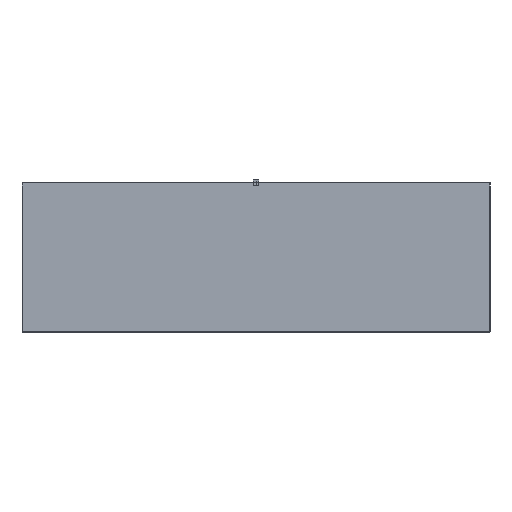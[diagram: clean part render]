
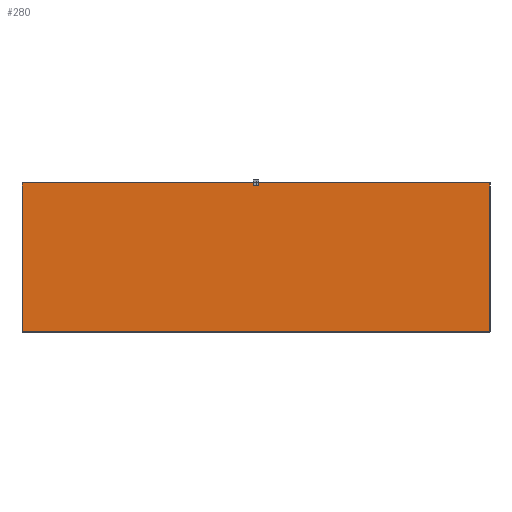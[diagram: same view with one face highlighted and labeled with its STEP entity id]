
A CAD part, top view. The second image highlights one B-rep face of the part: STEP entity #280.
In plain terms, the highlighted planar face has unit normal (0, 0, 1).
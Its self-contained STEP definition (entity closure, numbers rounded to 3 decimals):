
#1=DIRECTION('',(1.,0.,0.));
#2=VECTOR('',#1,1584.6);
#3=CARTESIAN_POINT('',(-792.3,-504.8,0.));
#4=LINE('',#3,#2);
#5=DIRECTION('',(0.,-1.,0.));
#6=VECTOR('',#5,504.6);
#7=CARTESIAN_POINT('',(-792.3,-0.2,0.));
#8=LINE('',#7,#6);
#9=DIRECTION('',(-1.,0.,0.));
#10=VECTOR('',#9,1584.6);
#11=CARTESIAN_POINT('',(792.3,-0.2,0.));
#12=LINE('',#11,#10);
#13=DIRECTION('',(0.,1.,0.));
#14=VECTOR('',#13,504.6);
#15=CARTESIAN_POINT('',(792.3,-504.8,0.));
#16=LINE('',#15,#14);
#221=CARTESIAN_POINT('',(-792.3,-504.8,0.));
#222=CARTESIAN_POINT('',(792.3,-504.8,0.));
#223=VERTEX_POINT('',#221);
#224=VERTEX_POINT('',#222);
#249=CARTESIAN_POINT('',(-792.3,-0.2,0.));
#250=VERTEX_POINT('',#249);
#251=CARTESIAN_POINT('',(792.3,-0.2,0.));
#252=VERTEX_POINT('',#251);
#265=CARTESIAN_POINT('',(0.,0.,0.));
#266=DIRECTION('',(0.,0.,1.));
#267=DIRECTION('',(1.,0.,0.));
#268=AXIS2_PLACEMENT_3D('',#265,#266,#267);
#269=PLANE('',#268);
#271=ORIENTED_EDGE('',*,*,#270,.F.);
#273=ORIENTED_EDGE('',*,*,#272,.F.);
#275=ORIENTED_EDGE('',*,*,#274,.F.);
#277=ORIENTED_EDGE('',*,*,#276,.F.);
#278=EDGE_LOOP('',(#271,#273,#275,#277));
#279=FACE_OUTER_BOUND('',#278,.F.);
#280=ADVANCED_FACE('',(#279),#269,.T.);
#270=EDGE_CURVE('',#223,#224,#4,.T.);
#272=EDGE_CURVE('',#250,#223,#8,.T.);
#274=EDGE_CURVE('',#252,#250,#12,.T.);
#276=EDGE_CURVE('',#224,#252,#16,.T.);
